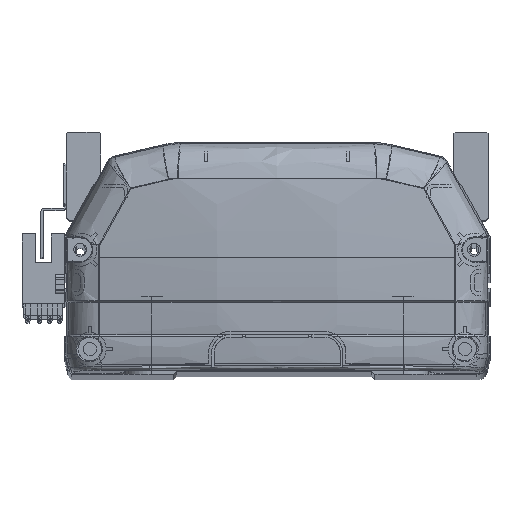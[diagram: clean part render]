
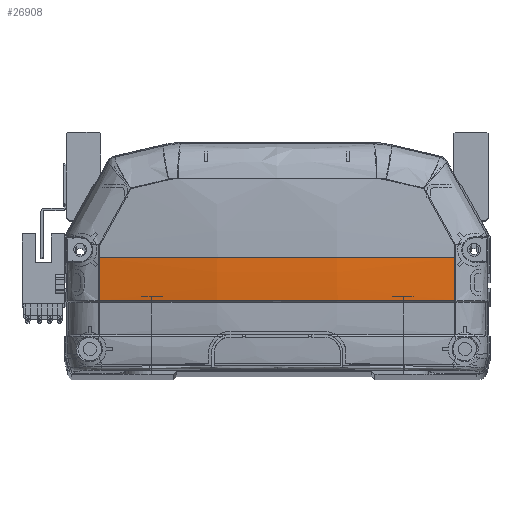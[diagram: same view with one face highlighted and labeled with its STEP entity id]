
A CAD part, top view. The second image highlights one B-rep face of the part: STEP entity #26908.
In plain terms, the highlighted free-form (B-spline) face has degree [3, 3] with [4, 4] control points.
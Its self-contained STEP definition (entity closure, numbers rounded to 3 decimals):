
#1302 = VERTEX_POINT ( 'NONE', #37946 ) ;
#2377 = VERTEX_POINT ( 'NONE', #6153 ) ;
#4882 = EDGE_CURVE ( 'NONE', #19960, #46737, #19086, .T. ) ;
#6153 = CARTESIAN_POINT ( 'NONE',  ( -56.647, 36., -5.158 ) ) ;
#6313 = CARTESIAN_POINT ( 'NONE',  ( 4.761, 22.225, -9.537 ) ) ;
#6331 = CARTESIAN_POINT ( 'NONE',  ( 56.647, 31.387, -5.158 ) ) ;
#6469 = CARTESIAN_POINT ( 'NONE',  ( 11.954, 22.225, -9.367 ) ) ;
#7906 = CARTESIAN_POINT ( 'NONE',  ( -56.661, 22.225, -4.818 ) ) ;
#8230 = CARTESIAN_POINT ( 'NONE',  ( 19.295, 26.549, -11.419 ) ) ;
#9969 = CARTESIAN_POINT ( 'NONE',  ( -56.661, 22.225, -4.818 ) ) ;
#10449 = CARTESIAN_POINT ( 'NONE',  ( 56.652, 26.806, -5.044 ) ) ;
#10777 = CIRCLE ( 'NONE', #35098, 6395.966 ) ;
#11426 = CARTESIAN_POINT ( 'NONE',  ( 56.661, 22.225, -4.818 ) ) ;
#11437 = CARTESIAN_POINT ( 'NONE',  ( -56.661, 22.225, -4.818 ) ) ;
#12042 = ORIENTED_EDGE ( 'NONE', *, *, #4882, .T. ) ;
#13017 = CARTESIAN_POINT ( 'NONE',  ( 2.357, 22.225, -9.562 ) ) ;
#13177 = CARTESIAN_POINT ( 'NONE',  ( -19.28, 22.225, -9.565 ) ) ;
#13824 = CARTESIAN_POINT ( 'NONE',  ( 56.647, 35.969, -5.158 ) ) ;
#13938 = CARTESIAN_POINT ( 'NONE',  ( 6452.613, 35.969, -5.158 ) ) ;
#14934 = CARTESIAN_POINT ( 'NONE',  ( -56.647, 31.405, -5.158 ) ) ;
#16519 = B_SPLINE_CURVE_WITH_KNOTS ( 'NONE', 3,
 ( #35530, #10449, #6331, #13824 ),
 .UNSPECIFIED., .F., .F.,
 ( 4, 4 ),
 ( 0., 1. ),
 .UNSPECIFIED. ) ;
#16980 = CARTESIAN_POINT ( 'NONE',  ( -38.235, 22.225, -7.93 ) ) ;
#17076 = EDGE_CURVE ( 'NONE', #19960, #1302, #16519, .T. ) ;
#17124 = CARTESIAN_POINT ( 'NONE',  ( 56.661, 22.225, -4.818 ) ) ;
#17272 = CARTESIAN_POINT ( 'NONE',  ( 47.432, 22.225, -6.377 ) ) ;
#17673 = CARTESIAN_POINT ( 'NONE',  ( 56.647, 36., -5.158 ) ) ;
#17816 = CARTESIAN_POINT ( 'NONE',  ( 57.335, 26.762, -4.928 ) ) ;
#18416 = CARTESIAN_POINT ( 'NONE',  ( -56.647, 36., -5.158 ) ) ;
#18728 = CARTESIAN_POINT ( 'NONE',  ( -57.335, 36., -5.042 ) ) ;
#18774 = EDGE_CURVE ( 'NONE', #1302, #41926, #10777, .T. ) ;
#19086 = B_SPLINE_CURVE_WITH_KNOTS ( 'NONE', 3,
 ( #17124, #17272, #34875, #20777, #38715, #6469, #24450, #6313, #13017, #42047, #13177, #16980, #9969 ),
 .UNSPECIFIED., .F., .F.,
 ( 4, 2, 2, 1, 2, 2, 4 ),
 ( 0., 0.25, 0.375, 0.438, 0.469, 0.5, 1. ),
 .UNSPECIFIED. ) ;
#19382 = CARTESIAN_POINT ( 'NONE',  ( 0., 36., 330.833 ) ) ;
#19539 = DIRECTION ( 'NONE',  ( 0., 1., 0. ) ) ;
#19960 = VERTEX_POINT ( 'NONE', #11426 ) ;
#20368 = FACE_OUTER_BOUND ( 'NONE', #25511, .T. ) ;
#20777 = CARTESIAN_POINT ( 'NONE',  ( 23.877, 22.225, -8.763 ) ) ;
#22556 = CARTESIAN_POINT ( 'NONE',  ( -19.295, 31.274, -11.535 ) ) ;
#22682 = B_SPLINE_CURVE_WITH_KNOTS ( 'NONE', 3,
 ( #18416, #14934, #25605, #7906 ),
 .UNSPECIFIED., .F., .F.,
 ( 4, 4 ),
 ( 0., 1. ),
 .UNSPECIFIED. ) ;
#23515 = ORIENTED_EDGE ( 'NONE', *, *, #32813, .F. ) ;
#24450 = CARTESIAN_POINT ( 'NONE',  ( 8.363, 22.225, -9.48 ) ) ;
#25142 = CARTESIAN_POINT ( 'NONE',  ( 57.335, 36., -5.042 ) ) ;
#25511 = EDGE_LOOP ( 'NONE', ( #29802, #40860, #44048, #12042, #23515 ) ) ;
#25605 = CARTESIAN_POINT ( 'NONE',  ( -56.652, 26.814, -5.045 ) ) ;
#25921 = CARTESIAN_POINT ( 'NONE',  ( -57.335, 26.762, -4.928 ) ) ;
#26077 = CARTESIAN_POINT ( 'NONE',  ( 19.295, 36., -11.535 ) ) ;
#26229 = CARTESIAN_POINT ( 'NONE',  ( -19.295, 21.828, -11.186 ) ) ;
#26908 = ADVANCED_FACE ( 'NONE', ( #20368 ), #27105, .T. ) ;
#27105 =( BOUNDED_SURFACE ( )  B_SPLINE_SURFACE ( 3, 3, ( 
 ( #36666, #17816, #46824, #25142 ),
 ( #28816, #8230, #37294, #26077 ),
 ( #26229, #30030, #22556, #44422 ),
 ( #33296, #25921, #37127, #18728 ) ),
 .UNSPECIFIED., .F., .F., .F. ) 
 B_SPLINE_SURFACE_WITH_KNOTS ( ( 4, 4 ),
 ( 4, 4 ),
 ( 0., 1. ),
 ( 0., 1. ),
 .UNSPECIFIED. ) 
 GEOMETRIC_REPRESENTATION_ITEM ( )  RATIONAL_B_SPLINE_SURFACE ( (
 ( 1., 1., 1., 1.),
 ( 0.99, 0.99, 0.99, 0.99),
 ( 0.99, 0.99, 0.99, 0.99),
 ( 1., 1., 1., 1.) ) ) 
 REPRESENTATION_ITEM ( '' )  SURFACE ( )  );
#28816 = CARTESIAN_POINT ( 'NONE',  ( 19.295, 21.828, -11.186 ) ) ;
#29802 = ORIENTED_EDGE ( 'NONE', *, *, #44694, .F. ) ;
#30030 = CARTESIAN_POINT ( 'NONE',  ( -19.295, 26.549, -11.419 ) ) ;
#31696 = DIRECTION ( 'NONE',  ( -1., 0., 0. ) ) ;
#32813 = EDGE_CURVE ( 'NONE', #2377, #46737, #22682, .T. ) ;
#33296 = CARTESIAN_POINT ( 'NONE',  ( -57.335, 22.148, -4.7 ) ) ;
#33530 = AXIS2_PLACEMENT_3D ( 'NONE', #19382, #19539, #45546 ) ;
#34875 = CARTESIAN_POINT ( 'NONE',  ( 38.071, 22.225, -7.566 ) ) ;
#35098 = AXIS2_PLACEMENT_3D ( 'NONE', #13938, #38998, #31696 ) ;
#35530 = CARTESIAN_POINT ( 'NONE',  ( 56.661, 22.225, -4.818 ) ) ;
#36666 = CARTESIAN_POINT ( 'NONE',  ( 57.335, 22.148, -4.7 ) ) ;
#37127 = CARTESIAN_POINT ( 'NONE',  ( -57.335, 31.38, -5.042 ) ) ;
#37294 = CARTESIAN_POINT ( 'NONE',  ( 19.295, 31.274, -11.535 ) ) ;
#37946 = CARTESIAN_POINT ( 'NONE',  ( 56.647, 35.969, -5.158 ) ) ;
#38715 = CARTESIAN_POINT ( 'NONE',  ( 19.121, 22.225, -9.064 ) ) ;
#38998 = DIRECTION ( 'NONE',  ( 0., 0., -1. ) ) ;
#39232 = CIRCLE ( 'NONE', #33530, 340.733 ) ;
#40860 = ORIENTED_EDGE ( 'NONE', *, *, #18774, .F. ) ;
#41926 = VERTEX_POINT ( 'NONE', #17673 ) ;
#42047 = CARTESIAN_POINT ( 'NONE',  ( 1.152, 22.225, -9.568 ) ) ;
#44048 = ORIENTED_EDGE ( 'NONE', *, *, #17076, .F. ) ;
#44422 = CARTESIAN_POINT ( 'NONE',  ( -19.295, 36., -11.535 ) ) ;
#44694 = EDGE_CURVE ( 'NONE', #41926, #2377, #39232, .T. ) ;
#45546 = DIRECTION ( 'NONE',  ( 0., 0., -1. ) ) ;
#46737 = VERTEX_POINT ( 'NONE', #11437 ) ;
#46824 = CARTESIAN_POINT ( 'NONE',  ( 57.335, 31.38, -5.042 ) ) ;
